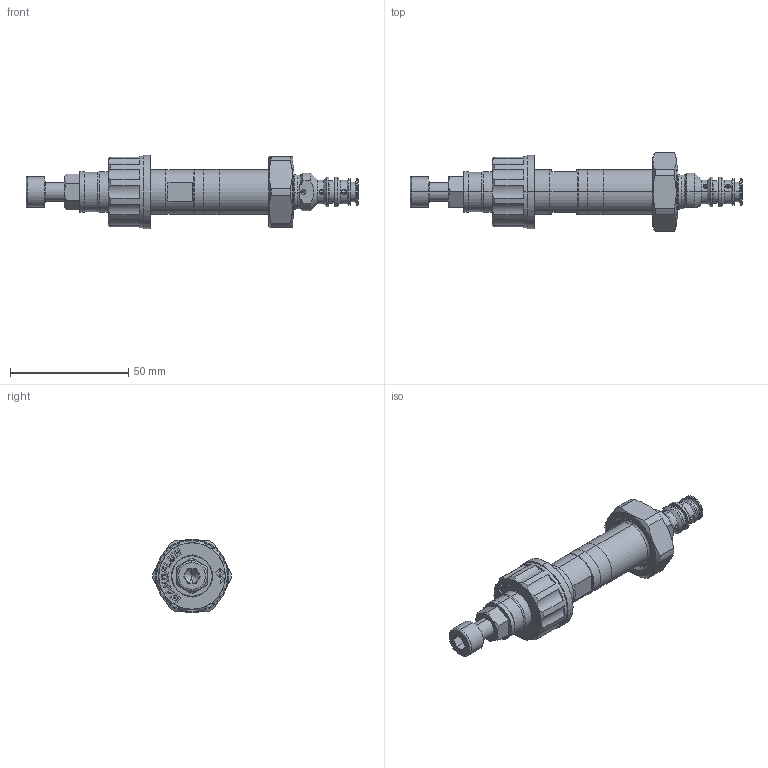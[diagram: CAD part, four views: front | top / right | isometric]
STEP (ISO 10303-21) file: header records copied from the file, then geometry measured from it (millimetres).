
FILE_DESCRIPTION (( 'STEP AP214' ), '1' );
FILE_NAME ('MDIPM16.STEP', '2014-07-16T09:55:08', ( '' ), ( '' ), 'SwSTEP 2.0', 'SolidWorks 2014', '' );
FILE_SCHEMA (( 'AUTOMOTIVE_DESIGN' ));
Length unit declared in the file: millimetre
Products named in the file (2): MDIPM16
Bounding box: 140.1 x 32.98 x 31 mm (x, y, z)
Volume: 40245.4 mm3; surface area: 18480.1 mm2
Topology: 7 solids, 7 shells, 435 faces, 1029 edges, 636 vertices
Faces by surface type: plane 182, cylinder 116, cone 90, torus 31, bspline 16
Entity records: 18645 total; most frequent: CARTESIAN_POINT 3733, DIRECTION 2109, ORIENTED_EDGE 2054, EDGE_CURVE 1027, AXIS2_PLACEMENT_3D 782, VERTEX_POINT 636, VECTOR 545, LINE 545
